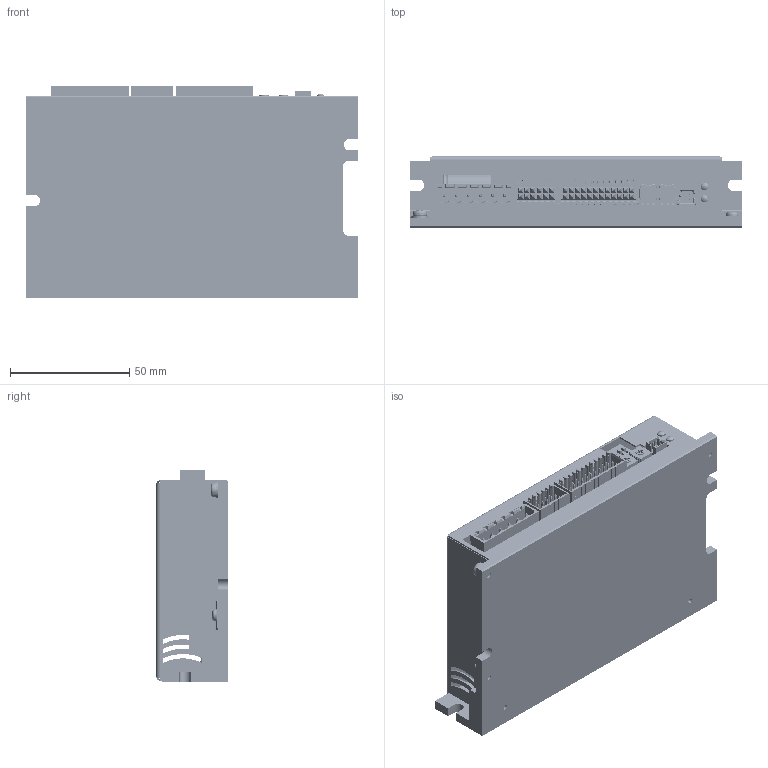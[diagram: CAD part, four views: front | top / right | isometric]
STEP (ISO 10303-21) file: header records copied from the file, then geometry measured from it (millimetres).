
FILE_DESCRIPTION((''),'2;1');
FILE_NAME('DW4D2400_CON_IME00_ASM','2019-08-27T15:21:57',('Matteo Maccalli'),(''),'CREO PARAMETRIC BY PTC INC, 2017260','CREO PARAMETRIC BY PTC INC, 2017260','');
FILE_SCHEMA(('AUTOMOTIVE_DESIGN { 1 0 10303 214 1 1 1 1 }'));
Products named in the file (79): ESTRUSO_DW4D2400; INSERTO_M2_5X08MM; ESTRUSO_DW4D2400_INSERTI_ASM; AD_01024_DW4D2400_EHE00; BOARD-125; 877600416; JMP500_ASM; CORE_BASE; CORE; PIN; WE-HCM-1070_ASM; L202_ASM; E13; T200_ASM; RTE0400V04; SW401_ASM; SW400_ASM; USER_LIBRARY-RES_LRW_1; USER_LIBRARY-RES_LRW_2; USER_LIBRARY-RES_LRW_3; USER_LIBRARY-RES_LRW_4; USER_LIBRARY-RES_LRW_5; USER_LIBRARY-RES_LRW_6; USER_LIBRARY-RES_LRW_7; USER_LIBRARY-RES_LRW_ASM; R351_ASM; R323_ASM; R322_ASM; BODY; PIN_CUT; USER_LIBRARY-TDSON-8-1_ASM_ASM; TDSON-8-1_ASM_ASM; Q305_ASM; Q304_ASM; Q303_ASM; Q302_ASM; Q301_ASM; Q300_ASM; 5151061F; GL400_ASM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
Assembly tree (152 placements, depth 7):
  DW4D2400_CON_IME00_ASM
    ESTRUSO_DW4D2400_INSERTI_ASM
      ESTRUSO_DW4D2400
      INSERTO_M2_5X08MM  x2
    AD_01024_DW4D2400_EHE00
    IME00-00_1_ASM
      PCB_ASM
        BOARD-125
        JMP500_ASM
          877600416
        L202_ASM
          WE-HCM-1070_ASM
            CORE_BASE
            CORE
            PIN
        T200_ASM
          E13
        SW401_ASM
          RTE0400V04
        SW400_ASM
          RTE0400V04
        R351_ASM
          USER_LIBRARY-RES_LRW_ASM
            USER_LIBRARY-RES_LRW_1
            USER_LIBRARY-RES_LRW_2
            USER_LIBRARY-RES_LRW_3
            USER_LIBRARY-RES_LRW_4
            USER_LIBRARY-RES_LRW_5
            USER_LIBRARY-RES_LRW_6
            USER_LIBRARY-RES_LRW_7
        R323_ASM
          USER_LIBRARY-RES_LRW_ASM
            USER_LIBRARY-RES_LRW_1
            USER_LIBRARY-RES_LRW_2
            USER_LIBRARY-RES_LRW_3
            USER_LIBRARY-RES_LRW_4
            USER_LIBRARY-RES_LRW_5
            USER_LIBRARY-RES_LRW_6
            USER_LIBRARY-RES_LRW_7
        R322_ASM
          USER_LIBRARY-RES_LRW_ASM
            USER_LIBRARY-RES_LRW_1
            USER_LIBRARY-RES_LRW_2
            USER_LIBRARY-RES_LRW_3
            USER_LIBRARY-RES_LRW_4
            USER_LIBRARY-RES_LRW_5
            USER_LIBRARY-RES_LRW_6
            USER_LIBRARY-RES_LRW_7
        Q305_ASM
          TDSON-8-1_ASM_ASM
            USER_LIBRARY-TDSON-8-1_ASM_ASM
              BODY
              PIN_CUT
        Q304_ASM
          TDSON-8-1_ASM_ASM
            USER_LIBRARY-TDSON-8-1_ASM_ASM
              BODY
              PIN_CUT
        Q303_ASM
          TDSON-8-1_ASM_ASM
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Bounding box: 139 x 30 x 88.8 mm (x, y, z)
Volume: 107836 mm3; surface area: 113593.4 mm2
Topology: 127 solids, 181 shells, 11793 faces, 30488 edges, 18788 vertices
Faces by surface type: plane 7000, cylinder 3179, torus 668, sphere 594, extrusion 266, cone 78, bspline 8
Entity records: 276061 total; most frequent: CARTESIAN_POINT 47185, ORIENTED_EDGE 37652, DIRECTION 34624, EDGE_CURVE 18902, VECTOR 14516, LINE 14384, VERTEX_POINT 12303, PRESENTATION_STYLE_ASSIGNMENT 10119
